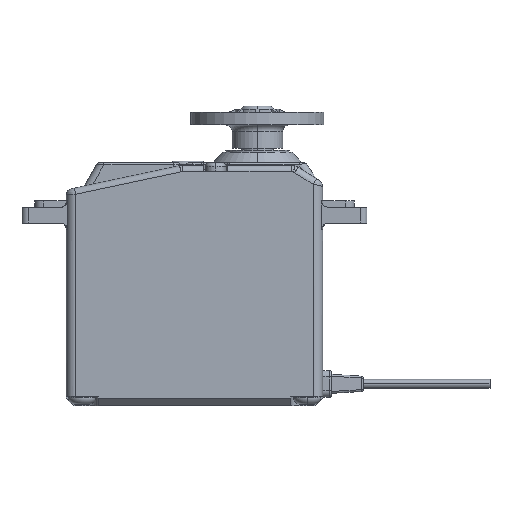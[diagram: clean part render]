
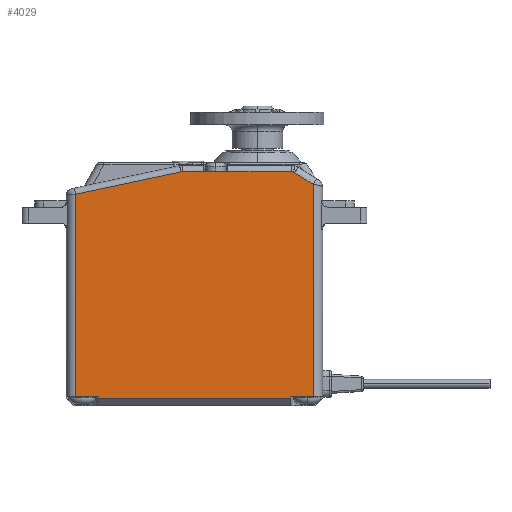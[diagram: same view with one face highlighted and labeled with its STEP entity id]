
A CAD part, left-side view. The second image highlights one B-rep face of the part: STEP entity #4029.
In plain terms, the highlighted planar face has unit normal (-1, 0, 0).
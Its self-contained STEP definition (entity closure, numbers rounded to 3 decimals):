
#14 = ORIENTED_EDGE ( 'NONE', *, *, #4341, .T. ) ;
#650 = CARTESIAN_POINT ( 'NONE',  ( -10.5, -10.35, -34.8 ) ) ;
#896 = DIRECTION ( 'NONE',  ( 0., -1., 0. ) ) ;
#935 = CARTESIAN_POINT ( 'NONE',  ( -10.5, -5.25, -36.9 ) ) ;
#1133 = LINE ( 'NONE', #14490, #12282 ) ;
#1210 = AXIS2_PLACEMENT_3D ( 'NONE', #650, #9151, #10534 ) ;
#1448 = EDGE_CURVE ( 'NONE', #11464, #12932, #9063, .T. ) ;
#1488 = VERTEX_POINT ( 'NONE', #10899 ) ;
#1491 = EDGE_CURVE ( 'NONE', #3863, #12794, #10883, .T. ) ;
#1573 = B_SPLINE_CURVE_WITH_KNOTS ( 'NONE', 6,
 ( #5739, #5898, #4525, #4602, #3380, #2172, #3464 ),
 .UNSPECIFIED., .F., .F.,
 ( 7, 7 ),
 ( 0., 1. ),
 .UNSPECIFIED. ) ;
#1659 = EDGE_CURVE ( 'NONE', #9250, #2551, #11853, .T. ) ;
#1660 = DIRECTION ( 'NONE',  ( 0., -1., 0. ) ) ;
#1822 = LINE ( 'NONE', #7897, #15307 ) ;
#1911 = LINE ( 'NONE', #6849, #9253 ) ;
#2039 = ORIENTED_EDGE ( 'NONE', *, *, #3711, .T. ) ;
#2172 = CARTESIAN_POINT ( 'NONE',  ( -10.5, 11.925, -1.4 ) ) ;
#2187 = CARTESIAN_POINT ( 'NONE',  ( -10.5, -10.35, -36.9 ) ) ;
#2233 = CARTESIAN_POINT ( 'NONE',  ( -10.5, -5.896, -1.552 ) ) ;
#2385 = CARTESIAN_POINT ( 'NONE',  ( -10.5, -10.35, -1.4 ) ) ;
#2399 = EDGE_CURVE ( 'NONE', #14342, #12794, #1133, .T. ) ;
#2551 = VERTEX_POINT ( 'NONE', #5811 ) ;
#2657 = CARTESIAN_POINT ( 'NONE',  ( -10.5, 12.098, -1.422 ) ) ;
#2802 = CARTESIAN_POINT ( 'NONE',  ( -10.5, -5.25, -37.2 ) ) ;
#2998 = DIRECTION ( 'NONE',  ( 0., 1., 0. ) ) ;
#3193 = CARTESIAN_POINT ( 'NONE',  ( -10.5, 28.7, -34.8 ) ) ;
#3234 = FACE_OUTER_BOUND ( 'NONE', #5429, .T. ) ;
#3380 = CARTESIAN_POINT ( 'NONE',  ( -10.5, 11.96, -1.401 ) ) ;
#3397 = DIRECTION ( 'NONE',  ( 0., 0.848, 0.53 ) ) ;
#3464 = CARTESIAN_POINT ( 'NONE',  ( -10.5, 11.89, -1.4 ) ) ;
#3513 = VECTOR ( 'NONE', #2998, 1000. ) ;
#3532 = CARTESIAN_POINT ( 'NONE',  ( -10.5, -5.818, -1.503 ) ) ;
#3711 = EDGE_CURVE ( 'NONE', #8529, #14342, #10161, .T. ) ;
#3860 = CARTESIAN_POINT ( 'NONE',  ( -10.5, -10.35, -1.4 ) ) ;
#3863 = VERTEX_POINT ( 'NONE', #7066 ) ;
#4029 = ADVANCED_FACE ( 'NONE', ( #3234 ), #5593, .T. ) ;
#4294 = DIRECTION ( 'NONE',  ( 0., -1., 0. ) ) ;
#4341 = EDGE_CURVE ( 'NONE', #9603, #9250, #15028, .T. ) ;
#4360 = VECTOR ( 'NONE', #7653, 1000. ) ;
#4378 = ORIENTED_EDGE ( 'NONE', *, *, #12149, .T. ) ;
#4525 = CARTESIAN_POINT ( 'NONE',  ( -10.5, 12.029, -1.409 ) ) ;
#4531 = EDGE_CURVE ( 'NONE', #12932, #15137, #7914, .T. ) ;
#4602 = CARTESIAN_POINT ( 'NONE',  ( -10.5, 11.994, -1.404 ) ) ;
#5117 = EDGE_CURVE ( 'NONE', #9603, #6696, #1573, .T. ) ;
#5264 = CARTESIAN_POINT ( 'NONE',  ( -10.5, 25.15, -36.9 ) ) ;
#5336 = CARTESIAN_POINT ( 'NONE',  ( -10.5, -5.642, -1.438 ) ) ;
#5429 = EDGE_LOOP ( 'NONE', ( #9024, #15426, #7036, #6352, #8676, #14, #6386, #14605, #9006, #12012, #15158, #4378, #2039, #6880, #10193 ) ) ;
#5440 = CARTESIAN_POINT ( 'NONE',  ( -10.5, -10.35, -1.4 ) ) ;
#5593 = PLANE ( 'NONE',  #1210 ) ;
#5739 = CARTESIAN_POINT ( 'NONE',  ( -10.5, 12.098, -1.422 ) ) ;
#5811 = CARTESIAN_POINT ( 'NONE',  ( -10.5, 28.7, -36.9 ) ) ;
#5889 = CARTESIAN_POINT ( 'NONE',  ( -10.5, -10.35, -37.2 ) ) ;
#5898 = CARTESIAN_POINT ( 'NONE',  ( -10.5, 12.064, -1.415 ) ) ;
#6115 = DIRECTION ( 'NONE',  ( 0., 1., 0. ) ) ;
#6285 = LINE ( 'NONE', #3860, #4360 ) ;
#6295 = CARTESIAN_POINT ( 'NONE',  ( -10.5, -8.8, -36.9 ) ) ;
#6352 = ORIENTED_EDGE ( 'NONE', *, *, #6713, .T. ) ;
#6386 = ORIENTED_EDGE ( 'NONE', *, *, #1659, .T. ) ;
#6644 = LINE ( 'NONE', #5440, #3513 ) ;
#6696 = VERTEX_POINT ( 'NONE', #15887 ) ;
#6713 = EDGE_CURVE ( 'NONE', #10090, #6696, #7325, .T. ) ;
#6774 = VECTOR ( 'NONE', #896, 1000. ) ;
#6849 = CARTESIAN_POINT ( 'NONE',  ( -10.5, 25.15, -38.4 ) ) ;
#6880 = ORIENTED_EDGE ( 'NONE', *, *, #2399, .T. ) ;
#6950 = VECTOR ( 'NONE', #6115, 1000. ) ;
#7036 = ORIENTED_EDGE ( 'NONE', *, *, #16001, .T. ) ;
#7066 = CARTESIAN_POINT ( 'NONE',  ( -10.5, -5.642, -1.438 ) ) ;
#7174 = CARTESIAN_POINT ( 'NONE',  ( -10.5, -5.732, -1.464 ) ) ;
#7231 = CARTESIAN_POINT ( 'NONE',  ( -10.5, 28.7, -4.951 ) ) ;
#7325 = LINE ( 'NONE', #2385, #6950 ) ;
#7354 = DIRECTION ( 'NONE',  ( 0., 0.978, -0.208 ) ) ;
#7653 = DIRECTION ( 'NONE',  ( 0., 1., 0. ) ) ;
#7839 = CARTESIAN_POINT ( 'NONE',  ( -10.5, -5.366, -1.4 ) ) ;
#7897 = CARTESIAN_POINT ( 'NONE',  ( -10.5, -10.35, -36.9 ) ) ;
#7914 = LINE ( 'NONE', #9050, #10219 ) ;
#8342 = LINE ( 'NONE', #2187, #6774 ) ;
#8529 = VERTEX_POINT ( 'NONE', #6295 ) ;
#8676 = ORIENTED_EDGE ( 'NONE', *, *, #5117, .F. ) ;
#9006 = ORIENTED_EDGE ( 'NONE', *, *, #13117, .T. ) ;
#9024 = ORIENTED_EDGE ( 'NONE', *, *, #14308, .F. ) ;
#9028 = DIRECTION ( 'NONE',  ( 0., 0., 1. ) ) ;
#9050 = CARTESIAN_POINT ( 'NONE',  ( -10.5, -5.25, -38.4 ) ) ;
#9063 = LINE ( 'NONE', #5889, #14296 ) ;
#9133 = DIRECTION ( 'NONE',  ( 0., 0., 1. ) ) ;
#9151 = DIRECTION ( 'NONE',  ( -1., 0., 0. ) ) ;
#9241 = CARTESIAN_POINT ( 'NONE',  ( -10.5, -5.366, -1.4 ) ) ;
#9250 = VERTEX_POINT ( 'NONE', #7231 ) ;
#9253 = VECTOR ( 'NONE', #11778, 1000. ) ;
#9603 = VERTEX_POINT ( 'NONE', #14420 ) ;
#9829 = VERTEX_POINT ( 'NONE', #5264 ) ;
#9901 = CARTESIAN_POINT ( 'NONE',  ( -10.5, -8.8, -3.367 ) ) ;
#10090 = VERTEX_POINT ( 'NONE', #12716 ) ;
#10161 = LINE ( 'NONE', #15327, #10901 ) ;
#10193 = ORIENTED_EDGE ( 'NONE', *, *, #1491, .F. ) ;
#10219 = VECTOR ( 'NONE', #9133, 1000. ) ;
#10534 = DIRECTION ( 'NONE',  ( 0., 0., 1. ) ) ;
#10648 = DIRECTION ( 'NONE',  ( 0., 0., -1. ) ) ;
#10883 = B_SPLINE_CURVE_WITH_KNOTS ( 'NONE', 3,
 ( #13319, #7174, #3532, #2233 ),
 .UNSPECIFIED., .F., .F.,
 ( 4, 4 ),
 ( 0., 1. ),
 .UNSPECIFIED. ) ;
#10899 = CARTESIAN_POINT ( 'NONE',  ( -10.5, 5., -1.4 ) ) ;
#10901 = VECTOR ( 'NONE', #9028, 1000. ) ;
#11206 = VECTOR ( 'NONE', #10648, 1000. ) ;
#11359 = EDGE_CURVE ( 'NONE', #2551, #9829, #8342, .T. ) ;
#11464 = VERTEX_POINT ( 'NONE', #15188 ) ;
#11778 = DIRECTION ( 'NONE',  ( 0., 0., -1. ) ) ;
#11853 = LINE ( 'NONE', #3193, #11206 ) ;
#12012 = ORIENTED_EDGE ( 'NONE', *, *, #1448, .T. ) ;
#12149 = EDGE_CURVE ( 'NONE', #15137, #8529, #1822, .T. ) ;
#12282 = VECTOR ( 'NONE', #3397, 1000. ) ;
#12562 = VECTOR ( 'NONE', #7354, 1000. ) ;
#12716 = CARTESIAN_POINT ( 'NONE',  ( -10.5, 8.2, -1.4 ) ) ;
#12772 = CARTESIAN_POINT ( 'NONE',  ( -10.5, -5.552, -1.413 ) ) ;
#12794 = VERTEX_POINT ( 'NONE', #15755 ) ;
#12932 = VERTEX_POINT ( 'NONE', #2802 ) ;
#13117 = EDGE_CURVE ( 'NONE', #9829, #11464, #1911, .T. ) ;
#13319 = CARTESIAN_POINT ( 'NONE',  ( -10.5, -5.642, -1.438 ) ) ;
#14296 = VECTOR ( 'NONE', #4294, 1000. ) ;
#14308 = EDGE_CURVE ( 'NONE', #15891, #3863, #15214, .T. ) ;
#14342 = VERTEX_POINT ( 'NONE', #9901 ) ;
#14420 = CARTESIAN_POINT ( 'NONE',  ( -10.5, 12.098, -1.422 ) ) ;
#14490 = CARTESIAN_POINT ( 'NONE',  ( -10.5, -8.8, -3.367 ) ) ;
#14605 = ORIENTED_EDGE ( 'NONE', *, *, #11359, .T. ) ;
#14819 = EDGE_CURVE ( 'NONE', #15891, #1488, #6285, .T. ) ;
#15028 = LINE ( 'NONE', #2657, #12562 ) ;
#15137 = VERTEX_POINT ( 'NONE', #935 ) ;
#15158 = ORIENTED_EDGE ( 'NONE', *, *, #4531, .T. ) ;
#15188 = CARTESIAN_POINT ( 'NONE',  ( -10.5, 25.15, -37.2 ) ) ;
#15190 = CARTESIAN_POINT ( 'NONE',  ( -10.5, -5.459, -1.4 ) ) ;
#15214 = B_SPLINE_CURVE_WITH_KNOTS ( 'NONE', 3,
 ( #7839, #15190, #12772, #5336 ),
 .UNSPECIFIED., .F., .F.,
 ( 4, 4 ),
 ( 0., 1. ),
 .UNSPECIFIED. ) ;
#15307 = VECTOR ( 'NONE', #1660, 1000. ) ;
#15327 = CARTESIAN_POINT ( 'NONE',  ( -10.5, -8.8, -34.8 ) ) ;
#15426 = ORIENTED_EDGE ( 'NONE', *, *, #14819, .T. ) ;
#15755 = CARTESIAN_POINT ( 'NONE',  ( -10.5, -5.896, -1.552 ) ) ;
#15887 = CARTESIAN_POINT ( 'NONE',  ( -10.5, 11.89, -1.4 ) ) ;
#15891 = VERTEX_POINT ( 'NONE', #9241 ) ;
#16001 = EDGE_CURVE ( 'NONE', #1488, #10090, #6644, .T. ) ;
